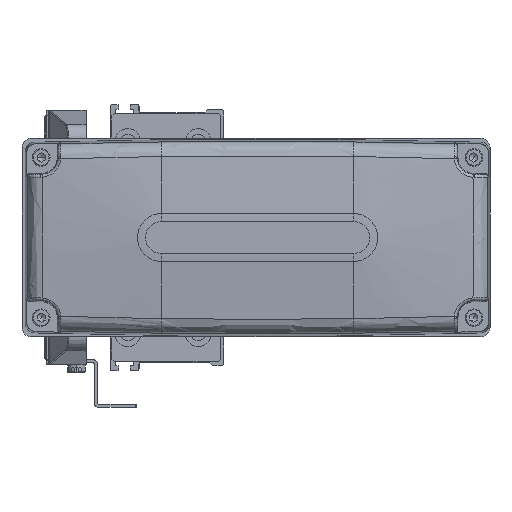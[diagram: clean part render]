
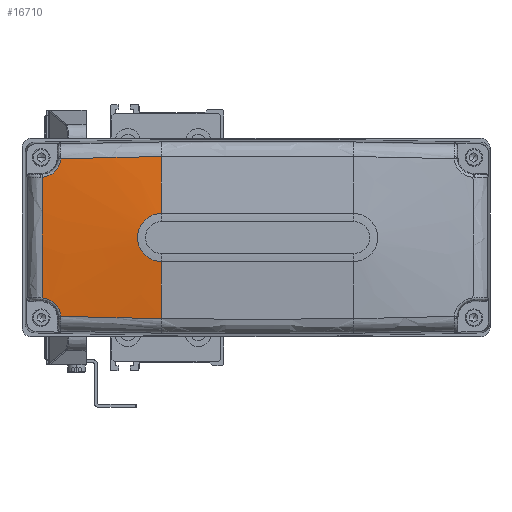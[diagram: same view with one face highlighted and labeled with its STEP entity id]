
A CAD part, left-side view. The second image highlights one B-rep face of the part: STEP entity #16710.
In plain terms, the highlighted conical face has half-angle 85 degrees and reference radius 41.25 mm.
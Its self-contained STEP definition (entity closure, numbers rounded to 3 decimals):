
#585 = VERTEX_POINT ( 'NONE', #14533 ) ;
#718 = EDGE_CURVE ( 'NONE', #4126, #585, #2144, .T. ) ;
#787 = B_SPLINE_CURVE_WITH_KNOTS ( 'NONE', 3,
 ( #25591, #10052, #20263, #28118, #5194, #4867 ),
 .UNSPECIFIED., .F., .F.,
 ( 4, 2, 4 ),
 ( 0., 0.519, 1. ),
 .UNSPECIFIED. ) ;
#918 = CARTESIAN_POINT ( 'NONE',  ( -63.781, 56.732, -1.895 ) ) ;
#1949 = B_SPLINE_CURVE_WITH_KNOTS ( 'NONE', 3,
 ( #32756, #29601, #27083, #7057, #19745, #6889, #17065, #22576 ),
 .UNSPECIFIED., .F., .F.,
 ( 4, 2, 2, 4 ),
 ( 0., 0.356, 0.752, 1. ),
 .UNSPECIFIED. ) ;
#2144 = LINE ( 'NONE', #23060, #13439 ) ;
#2273 = CARTESIAN_POINT ( 'NONE',  ( -63.56, 54.222, -19.468 ) ) ;
#2836 = CARTESIAN_POINT ( 'NONE',  ( -63.988, 44.127, 24.74 ) ) ;
#3267 = CARTESIAN_POINT ( 'NONE',  ( -63.395, 56.695, -18.826 ) ) ;
#3402 = CARTESIAN_POINT ( 'NONE',  ( -63.558, 50.861, -24.551 ) ) ;
#4126 = VERTEX_POINT ( 'NONE', #4265 ) ;
#4265 = CARTESIAN_POINT ( 'NONE',  ( -64.832, 19.5, -25.269 ) ) ;
#4867 = CARTESIAN_POINT ( 'NONE',  ( -63.558, 50.861, -24.551 ) ) ;
#4869 = CIRCLE ( 'NONE', #9155, 7.5 ) ;
#5194 = CARTESIAN_POINT ( 'NONE',  ( -63.894, 45.868, -24.695 ) ) ;
#5201 = EDGE_CURVE ( 'NONE', #13963, #23705, #21225, .T. ) ;
#5314 = DIRECTION ( 'NONE',  ( -0.087, 0., 0.996 ) ) ;
#5514 = CARTESIAN_POINT ( 'NONE',  ( -64.75, 27.754, 25.141 ) ) ;
#5954 = EDGE_CURVE ( 'NONE', #17654, #29541, #30333, .T. ) ;
#6639 = DIRECTION ( 'NONE',  ( 1., 0., 0. ) ) ;
#6763 = EDGE_LOOP ( 'NONE', ( #16400, #18616, #7371, #23131, #24627, #27144, #31378, #17962, #21762 ) ) ;
#6782 = EDGE_CURVE ( 'NONE', #9595, #13963, #26266, .T. ) ;
#6889 = CARTESIAN_POINT ( 'NONE',  ( -63.618, 51.111, 23.094 ) ) ;
#6897 = LINE ( 'NONE', #17240, #22739 ) ;
#7057 = CARTESIAN_POINT ( 'NONE',  ( -63.631, 52.727, 20.432 ) ) ;
#7143 = CARTESIAN_POINT ( 'NONE',  ( -63.433, 19.5, 0. ) ) ;
#7371 = ORIENTED_EDGE ( 'NONE', *, *, #31893, .F. ) ;
#7820 = AXIS2_PLACEMENT_3D ( 'NONE', #7143, #6639, #17320 ) ;
#8435 = CARTESIAN_POINT ( 'NONE',  ( -63.484, 56.703, 16.482 ) ) ;
#8943 = CARTESIAN_POINT ( 'NONE',  ( -63.802, 56.734, 4.107 ) ) ;
#9155 = AXIS2_PLACEMENT_3D ( 'NONE', #18589, #21280, #28788 ) ;
#9270 = CARTESIAN_POINT ( 'NONE',  ( -63.615, 56.714, -13.107 ) ) ;
#9595 = VERTEX_POINT ( 'NONE', #3267 ) ;
#9977 = CARTESIAN_POINT ( 'NONE',  ( -63.395, 56.695, -18.826 ) ) ;
#10047 = CARTESIAN_POINT ( 'NONE',  ( -63.776, 56.731, -2.682 ) ) ;
#10052 = CARTESIAN_POINT ( 'NONE',  ( -64.837, 24.962, -25.202 ) ) ;
#10207 = CARTESIAN_POINT ( 'NONE',  ( -63.776, 56.731, -2.682 ) ) ;
#11259 = CARTESIAN_POINT ( 'NONE',  ( -63.776, 56.731, -2.682 ) ) ;
#12164 = CARTESIAN_POINT ( 'NONE',  ( -63.558, 50.861, -24.551 ) ) ;
#12611 = CONICAL_SURFACE ( 'NONE', #7820, 41.25, 1.484 ) ;
#13070 = VERTEX_POINT ( 'NONE', #29503 ) ;
#13439 = VECTOR ( 'NONE', #5314, 1000. ) ;
#13516 = CARTESIAN_POINT ( 'NONE',  ( -63.853, 46.375, 24.679 ) ) ;
#13963 = VERTEX_POINT ( 'NONE', #10047 ) ;
#14533 = CARTESIAN_POINT ( 'NONE',  ( -66.386, 19.5, -7.5 ) ) ;
#14756 = EDGE_CURVE ( 'NONE', #29541, #13070, #6897, .T. ) ;
#15001 = CARTESIAN_POINT ( 'NONE',  ( -63.635, 51.288, -22.516 ) ) ;
#15077 = CARTESIAN_POINT ( 'NONE',  ( -63.402, 56.696, -18.651 ) ) ;
#15098 = EDGE_CURVE ( 'NONE', #33031, #9595, #21846, .T. ) ;
#16283 = CARTESIAN_POINT ( 'NONE',  ( -63.782, 56.732, -1.502 ) ) ;
#16400 = ORIENTED_EDGE ( 'NONE', *, *, #6782, .F. ) ;
#16710 = ADVANCED_FACE ( 'NONE', ( #17874 ), #12611, .T. ) ;
#17065 = CARTESIAN_POINT ( 'NONE',  ( -63.593, 50.92, 23.817 ) ) ;
#17240 = CARTESIAN_POINT ( 'NONE',  ( -60.481, 19.5, 75. ) ) ;
#17320 = DIRECTION ( 'NONE',  ( 0., 0., -1. ) ) ;
#17654 = VERTEX_POINT ( 'NONE', #32272 ) ;
#17874 = FACE_OUTER_BOUND ( 'NONE', #6763, .T. ) ;
#17962 = ORIENTED_EDGE ( 'NONE', *, *, #30104, .F. ) ;
#18233 = CARTESIAN_POINT ( 'NONE',  ( -63.709, 48.619, 24.616 ) ) ;
#18545 = DIRECTION ( 'NONE',  ( -0.087, 0., -0.996 ) ) ;
#18589 = CARTESIAN_POINT ( 'NONE',  ( -66.386, 19.5, 0. ) ) ;
#18616 = ORIENTED_EDGE ( 'NONE', *, *, #15098, .F. ) ;
#18634 = CARTESIAN_POINT ( 'NONE',  ( -63.395, 56.695, 18.826 ) ) ;
#19218 = CARTESIAN_POINT ( 'NONE',  ( -63.395, 56.695, 18.826 ) ) ;
#19745 = CARTESIAN_POINT ( 'NONE',  ( -63.647, 51.919, 21.356 ) ) ;
#20252 = CARTESIAN_POINT ( 'NONE',  ( -63.744, 56.728, -7.897 ) ) ;
#20263 = CARTESIAN_POINT ( 'NONE',  ( -64.683, 30.417, -25.087 ) ) ;
#20910 = CARTESIAN_POINT ( 'NONE',  ( -64.836, 23.628, 25.218 ) ) ;
#21220 = CARTESIAN_POINT ( 'NONE',  ( -64.832, 19.5, 25.269 ) ) ;
#21225 = B_SPLINE_CURVE_WITH_KNOTS ( 'NONE', 3,
 ( #11259, #24147, #918, #16283, #8943, #31338, #8435, #31668, #18634 ),
 .UNSPECIFIED., .F., .F.,
 ( 4, 3, 2, 4 ),
 ( 0., 0.055, 0.836, 1. ),
 .UNSPECIFIED. ) ;
#21241 = CARTESIAN_POINT ( 'NONE',  ( -64.832, 19.5, 25.269 ) ) ;
#21280 = DIRECTION ( 'NONE',  ( 1., 0., 0. ) ) ;
#21762 = ORIENTED_EDGE ( 'NONE', *, *, #5201, .F. ) ;
#21846 = B_SPLINE_CURVE_WITH_KNOTS ( 'NONE', 3,
 ( #12164, #27539, #15001, #22691, #25186, #2273, #33034, #31047, #23512, #9977 ),
 .UNSPECIFIED., .F., .F.,
 ( 4, 2, 2, 2, 4 ),
 ( 0., 0.347, 0.637, 0.861, 1. ),
 .UNSPECIFIED. ) ;
#22576 = CARTESIAN_POINT ( 'NONE',  ( -63.558, 50.861, 24.551 ) ) ;
#22691 = CARTESIAN_POINT ( 'NONE',  ( -63.637, 52.323, -20.926 ) ) ;
#22739 = VECTOR ( 'NONE', #18545, 1000. ) ;
#23060 = CARTESIAN_POINT ( 'NONE',  ( -60.481, 19.5, -75. ) ) ;
#23131 = ORIENTED_EDGE ( 'NONE', *, *, #718, .T. ) ;
#23254 = CARTESIAN_POINT ( 'NONE',  ( -64.233, 40.052, 24.85 ) ) ;
#23512 = CARTESIAN_POINT ( 'NONE',  ( -63.426, 56.283, -18.851 ) ) ;
#23705 = VERTEX_POINT ( 'NONE', #19218 ) ;
#24147 = CARTESIAN_POINT ( 'NONE',  ( -63.779, 56.732, -2.289 ) ) ;
#24627 = ORIENTED_EDGE ( 'NONE', *, *, #30963, .T. ) ;
#25186 = CARTESIAN_POINT ( 'NONE',  ( -63.62, 52.945, -20.302 ) ) ;
#25249 = CARTESIAN_POINT ( 'NONE',  ( -63.409, 56.697, -18.476 ) ) ;
#25591 = CARTESIAN_POINT ( 'NONE',  ( -64.832, 19.5, -25.269 ) ) ;
#26266 = B_SPLINE_CURVE_WITH_KNOTS ( 'NONE', 3,
 ( #30291, #15077, #25249, #9270, #20252, #10207 ),
 .UNSPECIFIED., .F., .F.,
 ( 4, 2, 4 ),
 ( 0., 0.033, 1. ),
 .UNSPECIFIED. ) ;
#27083 = CARTESIAN_POINT ( 'NONE',  ( -63.541, 54.609, 19.227 ) ) ;
#27144 = ORIENTED_EDGE ( 'NONE', *, *, #14756, .F. ) ;
#27539 = CARTESIAN_POINT ( 'NONE',  ( -63.607, 50.944, -23.523 ) ) ;
#28118 = CARTESIAN_POINT ( 'NONE',  ( -64.201, 40.864, -24.831 ) ) ;
#28741 = CARTESIAN_POINT ( 'NONE',  ( -63.558, 50.861, 24.551 ) ) ;
#28788 = DIRECTION ( 'NONE',  ( 0., 0., -1. ) ) ;
#29503 = CARTESIAN_POINT ( 'NONE',  ( -66.386, 19.5, 7.5 ) ) ;
#29541 = VERTEX_POINT ( 'NONE', #21220 ) ;
#29601 = CARTESIAN_POINT ( 'NONE',  ( -63.474, 55.644, 18.89 ) ) ;
#30104 = EDGE_CURVE ( 'NONE', #23705, #17654, #1949, .T. ) ;
#30291 = CARTESIAN_POINT ( 'NONE',  ( -63.395, 56.695, -18.826 ) ) ;
#30333 = B_SPLINE_CURVE_WITH_KNOTS ( 'NONE', 3,
 ( #28741, #18233, #13516, #2836, #23254, #30943, #5514, #20910, #21241 ),
 .UNSPECIFIED., .F., .F.,
 ( 4, 3, 2, 4 ),
 ( 0., 0.216, 0.608, 1. ),
 .UNSPECIFIED. ) ;
#30943 = CARTESIAN_POINT ( 'NONE',  ( -64.447, 35.965, 24.956 ) ) ;
#30963 = EDGE_CURVE ( 'NONE', #585, #13070, #4869, .T. ) ;
#31047 = CARTESIAN_POINT ( 'NONE',  ( -63.455, 55.873, -18.917 ) ) ;
#31338 = CARTESIAN_POINT ( 'NONE',  ( -63.707, 56.723, 9.716 ) ) ;
#31378 = ORIENTED_EDGE ( 'NONE', *, *, #5954, .F. ) ;
#31668 = CARTESIAN_POINT ( 'NONE',  ( -63.441, 56.699, 17.654 ) ) ;
#31893 = EDGE_CURVE ( 'NONE', #4126, #33031, #787, .T. ) ;
#32272 = CARTESIAN_POINT ( 'NONE',  ( -63.558, 50.861, 24.551 ) ) ;
#32756 = CARTESIAN_POINT ( 'NONE',  ( -63.395, 56.695, 18.826 ) ) ;
#33031 = VERTEX_POINT ( 'NONE', #3402 ) ;
#33034 = CARTESIAN_POINT ( 'NONE',  ( -63.524, 54.834, -19.194 ) ) ;
